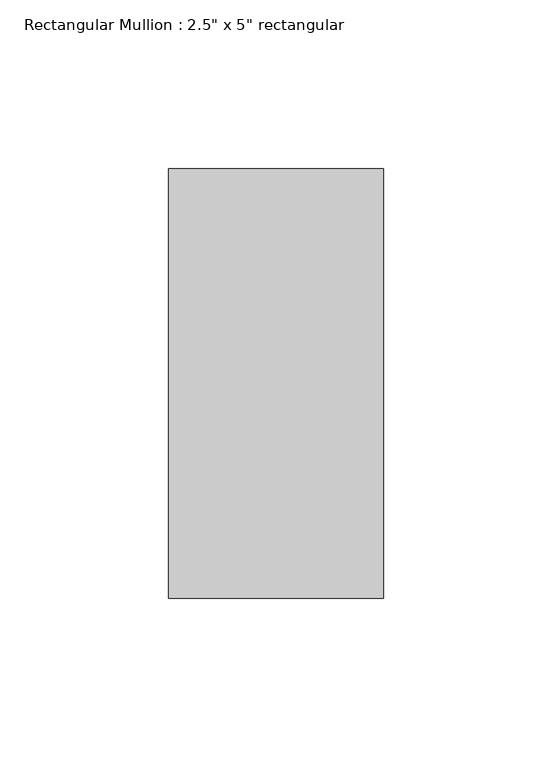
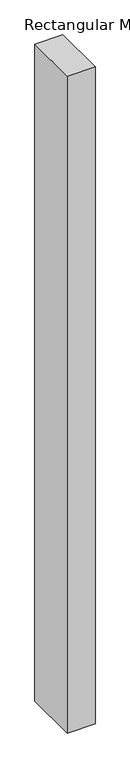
"""IFC4 building model written with IfcOpenShell, lengths in millimetres: member geometry."""

from ifc_helpers import new_model, si_unit, frame, origin, place, context, project, spatial, polyline, outline, extrude, source, transform, mapped, element, save


def member_247435d8(model_context):
    return source(origin(), model_context, "Body", "SweptSolid", [
        extrude(outline(polyline([(0.0, 63.5), (0.0, -63.5), (-63.5, -63.5), (-63.5, 63.5), (0.0, 63.5)])), frame((0.0, 0.0, -1581.15), z_axis=(0.0, 0.0, 1.0), x_axis=(1.0, 0.0, 0.0)), (0.0, 0.0, 1.0), 1581.15),
    ])


if __name__ == "__main__":
    model = new_model("IFC4")
    model_context = context("Model", 3, world=origin())
    ifc_project = project(units=[si_unit("LENGTHUNIT", "METRE", prefix="MILLI")], contexts=[model_context])
    site = spatial("IfcSite", under=ifc_project)
    building = spatial("IfcBuilding", under=site)
    placement = place(None, origin())
    member_shape = member_247435d8(model_context)
    element("IfcMember", 1, ObjectType="Rectangular Mullion : 2.5\" x 5\" rectangular", at=placement, inside=building, context=model_context, shape_type="MappedRepresentation", body=[
        mapped(member_shape, transform((0.0, 0.0, 0.0), x_axis=(1.0, 0.0, 0.0), y_axis=(0.0, 1.0, 0.0), z_axis=(0.0, 0.0, 1.0))),
    ])
    save(model, "model.ifc")
